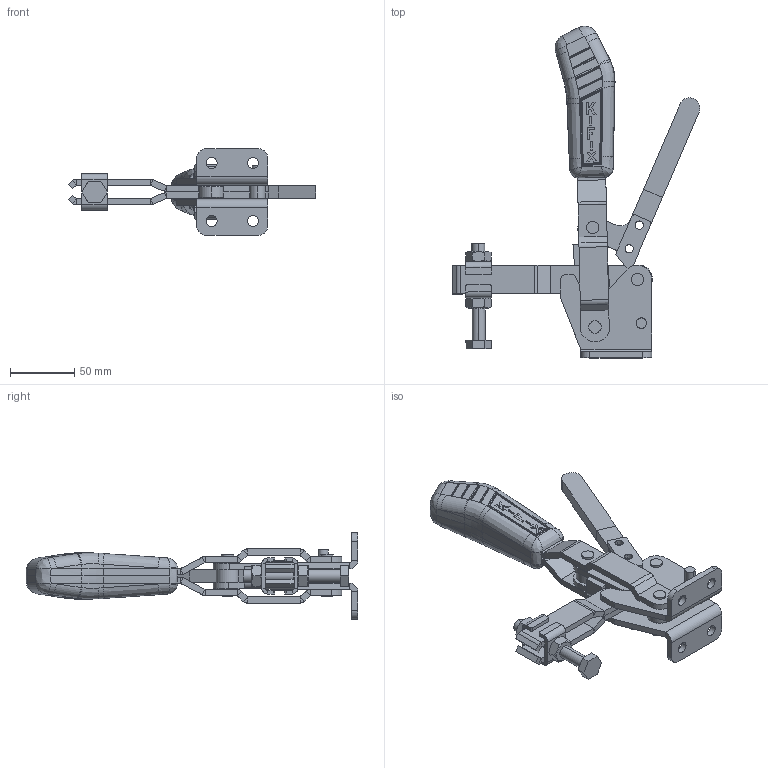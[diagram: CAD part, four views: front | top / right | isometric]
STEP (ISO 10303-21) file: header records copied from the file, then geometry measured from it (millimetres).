
FILE_DESCRIPTION (( 'STEP AP203' ), '1' );
FILE_NAME ('KF-111 DB TR.STEP', '2014-07-28T18:54:14', ( 'Ricardo' ), ( '' ), 'SwSTEP 2.0', 'SolidWorks 2013', '' );
FILE_SCHEMA (( 'CONFIG_CONTROL_DESIGN' ));
Length unit declared in the file: millimetre
Products named in the file (17): 02.12010_Direita; 14.10002; 02.12010_Esquerda; 11.50003; 03.13006; 12.50004; 01.10014; 07.60003; 04.10003A_Direita; 05.20006; 04.10003B_Direita; 18.10027; 04.20003; 18.10028; 06.50009; KF-111 DB TR; 06.50010
Assembly tree (22 placements, depth 2):
  KF-111 DB TR
    02.12010_Direita
    02.12010_Esquerda
    03.13006  x2
    01.10014  x2
    04.10003A_Direita
    04.10003B_Direita
    04.20003
    06.50009  x2
    06.50010  x2
    14.10002  x2
    11.50003  x2
    12.50004
    07.60003
    05.20006
    18.10027
    18.10028
Bounding box: 192.2 x 257.61 x 67 mm (x, y, z)
Volume: 285416.4 mm3; surface area: 117186.9 mm2
Topology: 22 solids, 22 shells, 898 faces, 2160 edges, 1317 vertices
Faces by surface type: plane 389, cylinder 281, bspline 145, sphere 48, cone 32, torus 3
Entity records: 27095 total; most frequent: CARTESIAN_POINT 9134, ORIENTED_EDGE 3570, DIRECTION 2958, EDGE_CURVE 1785, AXIS2_PLACEMENT_3D 1127, VERTEX_POINT 1109, EDGE_LOOP 816, FACE_OUTER_BOUND 735
